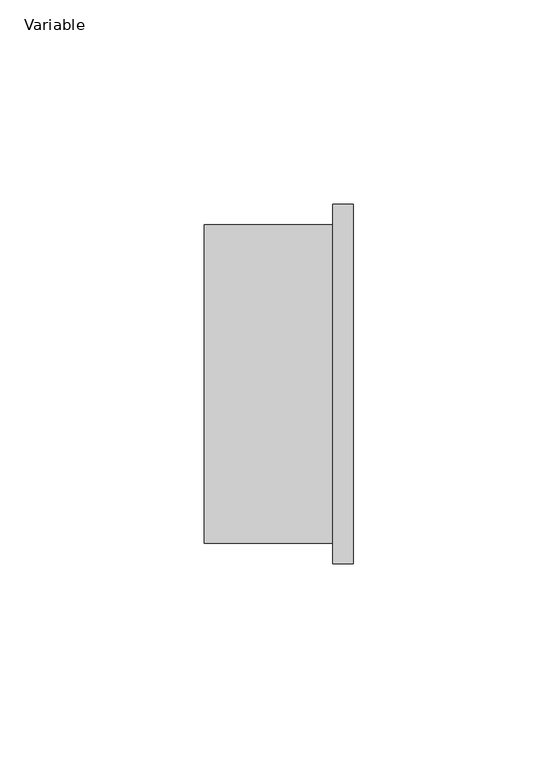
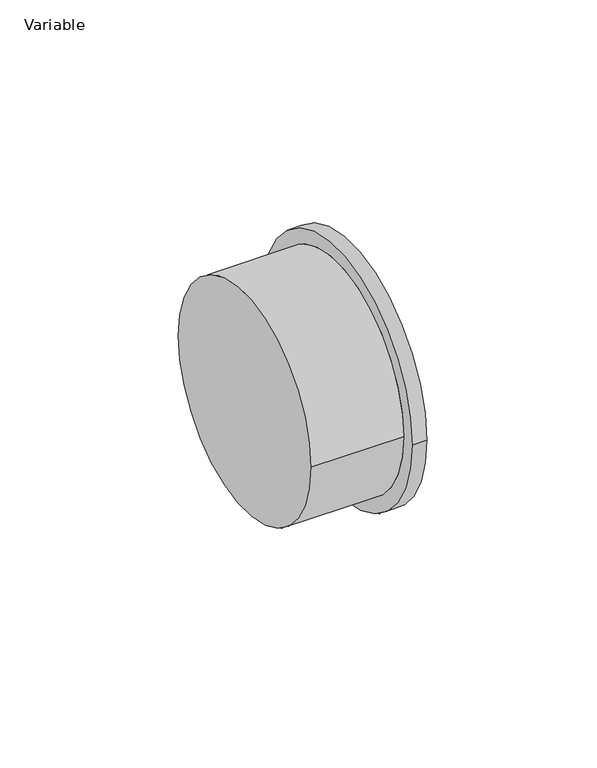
"""IFC4 building model written with IfcOpenShell, lengths in millimetres: pipe fitting geometry, AliaxisFR_Friaphon_Cap_FR : Variable."""

from ifc_helpers import new_model, si_unit, frame, origin, place, context, project, spatial, circle_curve, source, transform, mapped, element, save
from ifc_brep_helpers import plane_surface, cylinder_surface, advanced_brep


def variable_02581a42(model_context):
    return source(origin(), model_context, "Body", "AdvancedBrep", [
        advanced_brep(
        [(22.5, -39.0, 0.0), (22.5, 39.0, 0.0), (59.0, -44.0, 0.0), (59.0, 44.0, 0.0), (54.0, -44.0, 0.0), (54.0, 44.0, 0.0), (54.0, -39.0, 0.0), (54.0, 39.0, 0.0)],
        [
            (0, 1, circle_curve(frame((22.5, 0.0, 0.0), z_axis=(-1.0, 0.0, 0.0), x_axis=(0.0, 1.0, 0.0)), 39.0)),
            (1, 0, circle_curve(frame((22.5, 0.0, 0.0), z_axis=(-1.0, 0.0, 0.0), x_axis=(0.0, 1.0, 0.0)), 39.0)),
            (2, 3, circle_curve(frame((59.0, 0.0, 0.0), z_axis=(1.0, 0.0, 0.0), x_axis=(0.0, 1.0, 0.0)), 44.0)),
            (3, 2, circle_curve(frame((59.0, 0.0, 0.0), z_axis=(1.0, 0.0, 0.0), x_axis=(0.0, 1.0, 0.0)), 44.0)),
            (4, 5, circle_curve(frame((54.0, 0.0, 0.0), z_axis=(-1.0, 0.0, 0.0), x_axis=(0.0, 1.0, 0.0)), 44.0)),
            (5, 4, circle_curve(frame((54.0, 0.0, 0.0), z_axis=(-1.0, 0.0, 0.0), x_axis=(0.0, 1.0, 0.0)), 44.0)),
            (6, 7, circle_curve(frame((54.0, 0.0, 0.0), z_axis=(1.0, 0.0, 0.0), x_axis=(0.0, 1.0, 0.0)), 39.0)),
            (7, 6, circle_curve(frame((54.0, 0.0, 0.0), z_axis=(1.0, 0.0, 0.0), x_axis=(0.0, 1.0, 0.0)), 39.0)),
            (2, 4),
            (5, 3),
            (1, 7),
            (6, 0),
        ],
        [
            plane_surface(frame((22.5, 39.0, 0.0), z_axis=(-1.0, 0.0, 0.0), x_axis=(0.0, 0.0, -1.0))),
            plane_surface(frame((59.0, 44.0, 0.0), z_axis=(1.0, 0.0, 0.0), x_axis=(0.0, 0.0, 1.0))),
            plane_surface(frame((54.0, 44.0, 0.0), z_axis=(-1.0, 0.0, 0.0), x_axis=(0.0, 0.0, -1.0))),
            cylinder_surface(frame((54.0, 0.0, 0.0), z_axis=(1.0, 0.0, 0.0), x_axis=(0.0, 1.0, 0.0)), 44.0),
            cylinder_surface(frame((22.5, 0.0, 0.0), z_axis=(1.0, 0.0, 0.0), x_axis=(0.0, 1.0, 0.0)), 39.0),
        ],
        [
            (0, [[1, 2]]),
            (1, [[3, 4]]),
            (2, [[5, 6], [7, 8]]),
            (3, [[-3, 9, -6, 10]]),
            (3, [[-4, -10, -5, -9]]),
            (4, [[-2, 11, -7, 12]]),
            (4, [[-1, -12, -8, -11]]),
        ],
    ),
    ])


if __name__ == "__main__":
    model = new_model("IFC4")
    model_context = context("Model", 3, world=origin())
    ifc_project = project(units=[si_unit("LENGTHUNIT", "METRE", prefix="MILLI")], contexts=[model_context])
    site = spatial("IfcSite", under=ifc_project)
    building = spatial("IfcBuilding", under=site)
    placement = place(None, origin())
    variable_shape = variable_02581a42(model_context)
    element("IfcPipeFitting", 1, ObjectType="AliaxisFR_Friaphon_Cap_FR : Variable", at=placement, inside=building, context=model_context, shape_type="MappedRepresentation", body=[
        mapped(variable_shape, transform((0.0, 0.0, 0.0), x_axis=(1.0, 0.0, 0.0), y_axis=(0.0, 1.0, 0.0), z_axis=(0.0, 0.0, 1.0))),
    ])
    save(model, "model.ifc")
